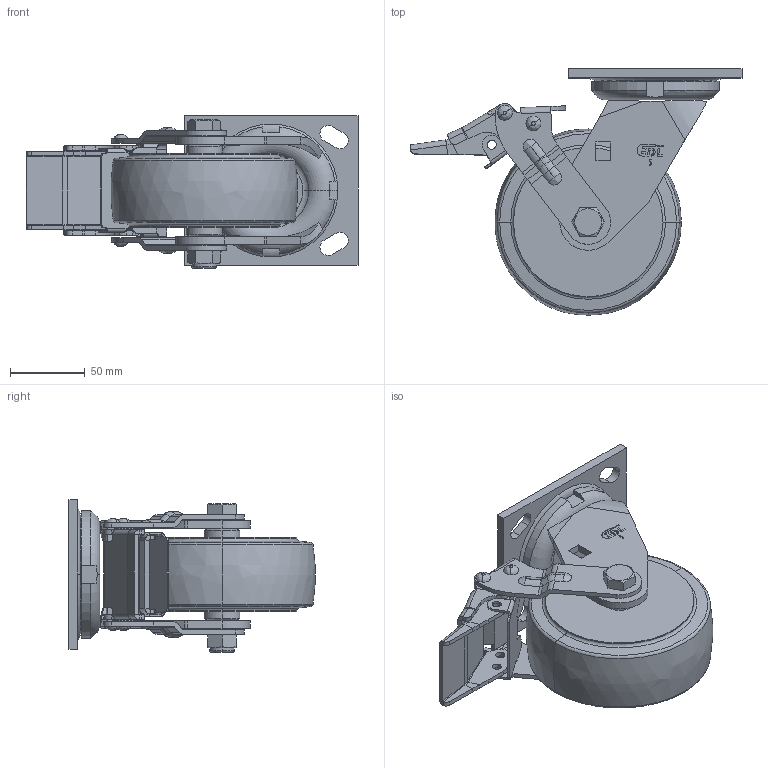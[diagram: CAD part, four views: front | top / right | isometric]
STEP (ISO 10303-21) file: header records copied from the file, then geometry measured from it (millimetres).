
FILE_DESCRIPTION((''),'2;1');
FILE_NAME('73125E-735-86_ASM','2020-11-28T',('lenovo'),(''),'PRO/ENGINEER BY PARAMETRIC TECHNOLOGY CORPORATION, 2010280','PRO/ENGINEER BY PARAMETRIC TECHNOLOGY CORPORATION, 2010280','');
FILE_SCHEMA(('CONFIG_CONTROL_DESIGN'));
Length unit declared in the file: millimetre
Products named in the file (13): 7310-201; 7310-211; 7315-353; 7315-311_ASM; 7315-535; 700-142; 700E-13_; 700-141; 735EE_ASM; 735-86; 7010-33-1; 7010-34; 73125E-735-86_ASM
Assembly tree (12 placements, depth 3):
  73125E-735-86_ASM
    7310-201
    7315-311_ASM
      7310-211
      7315-353
    735EE_ASM
      7315-535
      700-142
      700E-13_
      700-141
    735-86
    7010-33-1
    7010-34
Bounding box: 222.26 x 164.83 x 102 mm (x, y, z)
Volume: 827433.2 mm3; surface area: 158144.8 mm2
Topology: 11 solids, 11 shells, 679 faces, 1652 edges, 1012 vertices
Faces by surface type: plane 315, cylinder 210, torus 66, bspline 66, cone 22
Entity records: 22592 total; most frequent: CARTESIAN_POINT 6377, DIRECTION 3364, ORIENTED_EDGE 3304, EDGE_CURVE 1652, AXIS2_PLACEMENT_3D 1208, VERTEX_POINT 1012, VECTOR 948, LINE 948
